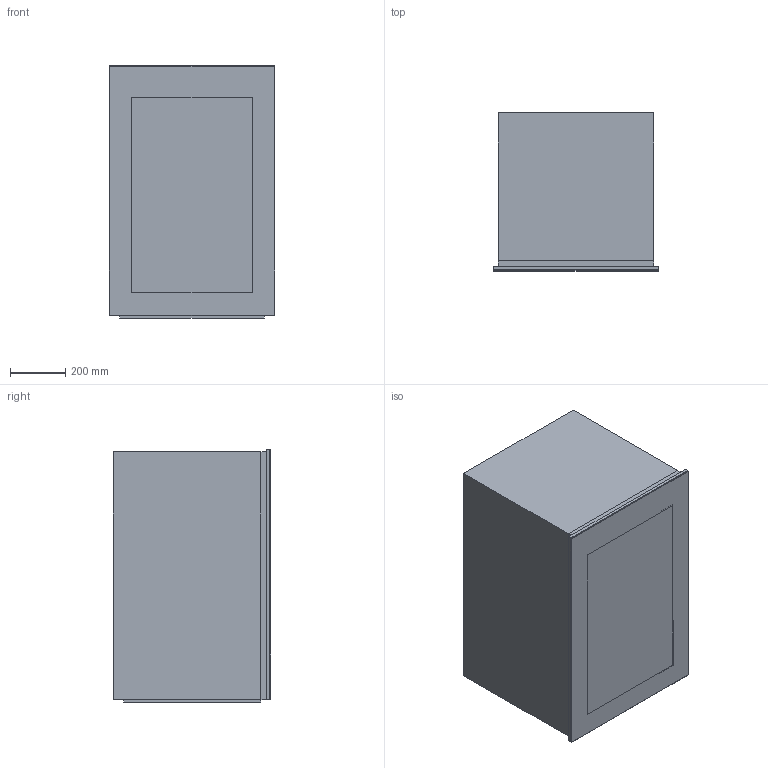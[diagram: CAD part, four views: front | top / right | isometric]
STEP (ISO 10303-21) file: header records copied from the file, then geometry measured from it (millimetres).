
FILE_DESCRIPTION(/* description */ (''),/* implementation_level */ '2;1');
FILE_NAME(/* name */ 'X5110200007-A',/* time_stamp */ '2025-02-13T12:48:14+01:00',/* author */ (''),/* organization */ (''),/* preprocessor_version */ 'ST-DEVELOPER v16.5',/* originating_system */ 'Rhino 7.38',/* authorisation */ '');
FILE_SCHEMA (('AUTOMOTIVE_DESIGN'));
Length unit declared in the file: millimetre
Products named in the file (1): Document
Bounding box: 596 x 570.01 x 909.53 mm (x, y, z)
Volume: 278246465.6 mm3; surface area: 5506966.4 mm2
Topology: 6 solids, 6 shells, 68 faces, 160 edges, 104 vertices
Faces by surface type: plane 56, bspline 8, cylinder 4
Entity records: 1863 total; most frequent: CARTESIAN_POINT 654, ORIENTED_EDGE 320, EDGE_CURVE 160, B_SPLINE_CURVE_WITH_KNOTS 136, VERTEX_POINT 104, EDGE_LOOP 72, ADVANCED_FACE 68, FACE_OUTER_BOUND 68
